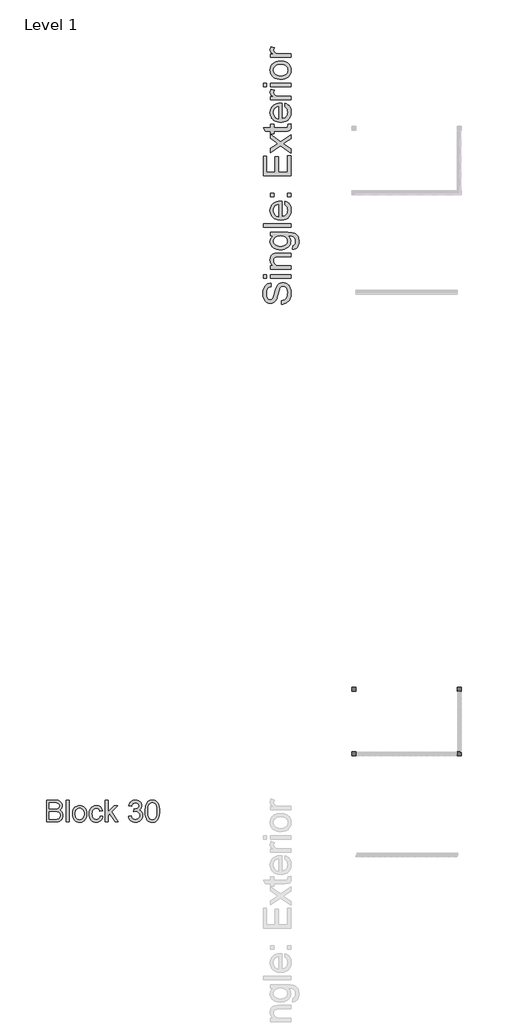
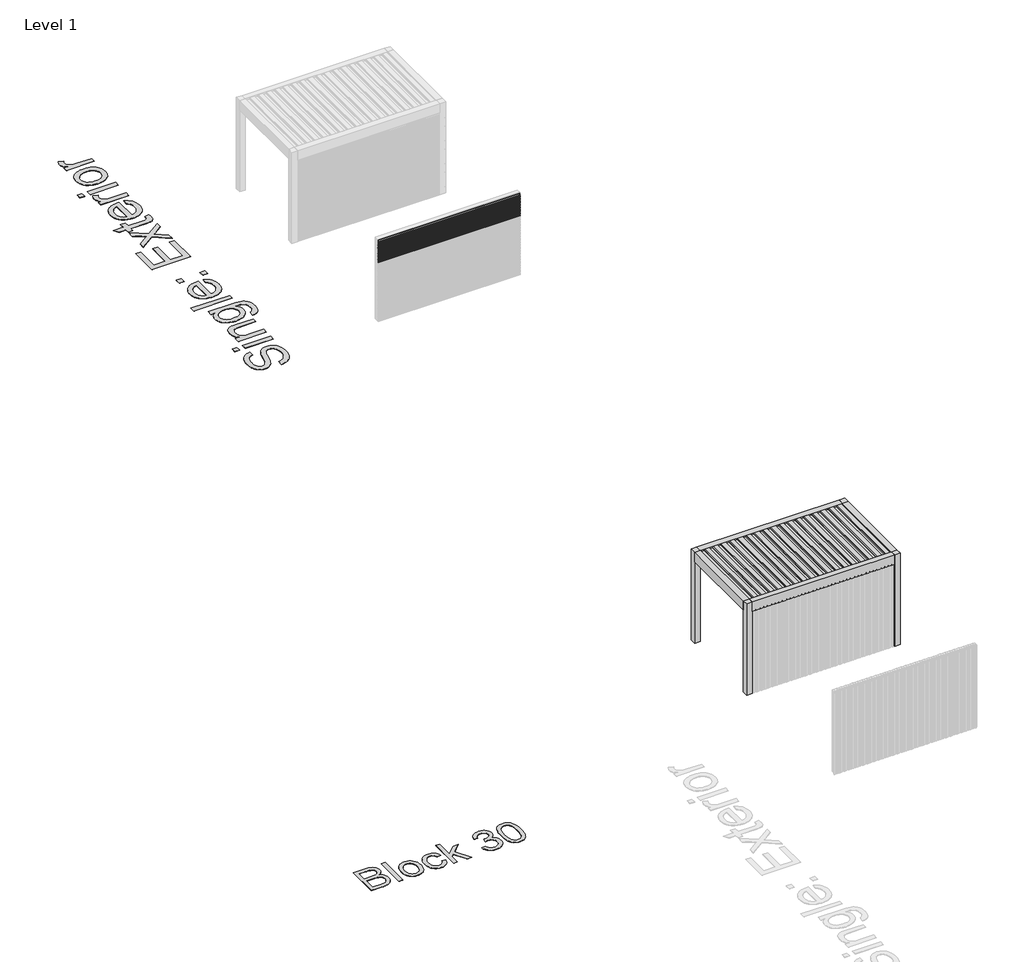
# One storey, part 56 of 69: 21 proxies.
"""IFC4 building model written with IfcOpenShell, lengths in millimetres."""

from ifc_helpers import new_model, si_unit, frame, origin, origin_with_axes, place, context, project, spatial, polyline, outline, extrude, transform, mapped, element, save
from components import generic_models_9b0df196

model = new_model("IFC4")

# Units and contexts
model_context = context("Model", 3, world=origin())
ifc_project = project(units=[si_unit("LENGTHUNIT", "METRE", prefix="MILLI")], contexts=[model_context])

# Site, building, storey
site = spatial("IfcSite", under=ifc_project)
building = spatial("IfcBuilding", under=site)
storey = spatial("IfcBuildingStorey", under=building, Name="Level 1", Elevation=0.0)

# Proxies
placement = place(None, origin())
element("IfcBuildingElementProxy", 1, Name="Wall Sweeps", at=placement, inside=storey, context=model_context, shape_type="SweptSolid", body=[
    extrude(outline(polyline([(35894.0955424, 2207.1), (35913.2455424, 2218.1562577), (35913.2455424, 2231.1), (35914.4955424, 2231.1), (35914.4955424, 2217.4345698), (35895.3455424, 2206.3782281), (35895.3455424, 2194.3216933), (35894.0955424, 2193.6), (35894.0955424, 2207.1)])), frame((207125.5749426, 0.0, 0.0), z_axis=(1.0, 0.0, 0.0), x_axis=(0.0, 1.0, 0.0)), (0.0, 0.0, 1.0), 3700.0),
])
element("IfcBuildingElementProxy", 2, Name="Wall Sweeps", at=placement, inside=storey, context=model_context, shape_type="SweptSolid", body=[
    extrude(outline(polyline([(35894.0955424, 2173.8), (35913.2455424, 2184.8562577), (35913.2455424, 2197.8), (35914.4955424, 2197.8), (35914.4955424, 2184.1345698), (35895.3455424, 2173.0782281), (35895.3455424, 2161.0216933), (35894.0955424, 2160.3), (35894.0955424, 2173.8)])), frame((207125.5749426, 0.0, 0.0), z_axis=(1.0, 0.0, 0.0), x_axis=(0.0, 1.0, 0.0)), (0.0, 0.0, 1.0), 3700.0),
])
element("IfcBuildingElementProxy", 3, Name="Wall Sweeps", at=placement, inside=storey, context=model_context, shape_type="SweptSolid", body=[
    extrude(outline(polyline([(35894.0955424, 2140.5), (35913.2455424, 2151.5562577), (35913.2455424, 2164.5), (35914.4955424, 2164.5), (35914.4955424, 2150.8345698), (35895.3455424, 2139.7782281), (35895.3455424, 2127.7216933), (35894.0955424, 2127.0), (35894.0955424, 2140.5)])), frame((207125.5749426, 0.0, 0.0), z_axis=(1.0, 0.0, 0.0), x_axis=(0.0, 1.0, 0.0)), (0.0, 0.0, 1.0), 3700.0),
])
element("IfcBuildingElementProxy", 4, Name="Wall Sweeps", at=placement, inside=storey, context=model_context, shape_type="SweptSolid", body=[
    extrude(outline(polyline([(35894.0955424, 2107.2), (35913.2455424, 2118.2562577), (35913.2455424, 2131.2), (35914.4955424, 2131.2), (35914.4955424, 2117.5345698), (35895.3455424, 2106.4782281), (35895.3455424, 2094.4216933), (35894.0955424, 2093.7), (35894.0955424, 2107.2)])), frame((207125.5749426, 0.0, 0.0), z_axis=(1.0, 0.0, 0.0), x_axis=(0.0, 1.0, 0.0)), (0.0, 0.0, 1.0), 3700.0),
])
element("IfcBuildingElementProxy", 5, Name="Wall Sweeps", at=placement, inside=storey, context=model_context, shape_type="SweptSolid", body=[
    extrude(outline(polyline([(35894.0955424, 2073.9), (35913.2455424, 2084.9562577), (35913.2455424, 2097.9), (35914.4955424, 2097.9), (35914.4955424, 2084.2345698), (35895.3455424, 2073.1782281), (35895.3455424, 2061.1216933), (35894.0955424, 2060.4), (35894.0955424, 2073.9)])), frame((207125.5749426, 0.0, 0.0), z_axis=(1.0, 0.0, 0.0), x_axis=(0.0, 1.0, 0.0)), (0.0, 0.0, 1.0), 3700.0),
])
element("IfcBuildingElementProxy", 6, Name="Wall Sweeps", at=placement, inside=storey, context=model_context, shape_type="SweptSolid", body=[
    extrude(outline(polyline([(35894.0955424, 2040.6), (35913.2455424, 2051.6562577), (35913.2455424, 2064.6), (35914.4955424, 2064.6), (35914.4955424, 2050.9345698), (35895.3455424, 2039.8782281), (35895.3455424, 2027.8216933), (35894.0955424, 2027.1), (35894.0955424, 2040.6)])), frame((207125.5749426, 0.0, 0.0), z_axis=(1.0, 0.0, 0.0), x_axis=(0.0, 1.0, 0.0)), (0.0, 0.0, 1.0), 3700.0),
])
element("IfcBuildingElementProxy", 7, Name="Wall Sweeps", at=placement, inside=storey, context=model_context, shape_type="SweptSolid", body=[
    extrude(outline(polyline([(35894.0955424, 2007.3), (35913.2455424, 2018.3562577), (35913.2455424, 2031.3), (35914.4955424, 2031.3), (35914.4955424, 2017.6345698), (35895.3455424, 2006.5782281), (35895.3455424, 1994.5216933), (35894.0955424, 1993.8), (35894.0955424, 2007.3)])), frame((207125.5749426, 0.0, 0.0), z_axis=(1.0, 0.0, 0.0), x_axis=(0.0, 1.0, 0.0)), (0.0, 0.0, 1.0), 3700.0),
])
element("IfcBuildingElementProxy", 8, Name="Wall Sweeps", at=placement, inside=storey, context=model_context, shape_type="SweptSolid", body=[
    extrude(outline(polyline([(35894.0955424, 1974.0), (35913.2455424, 1985.0562577), (35913.2455424, 1998.0), (35914.4955424, 1998.0), (35914.4955424, 1984.3345698), (35895.3455424, 1973.2782281), (35895.3455424, 1961.2216933), (35894.0955424, 1960.5), (35894.0955424, 1974.0)])), frame((207125.5749426, 0.0, 0.0), z_axis=(1.0, 0.0, 0.0), x_axis=(0.0, 1.0, 0.0)), (0.0, 0.0, 1.0), 3700.0),
])
element("IfcBuildingElementProxy", 9, Name="Wall Sweeps", at=placement, inside=storey, context=model_context, shape_type="SweptSolid", body=[
    extrude(outline(polyline([(35894.0955424, 1940.7), (35913.2455424, 1951.7562577), (35913.2455424, 1964.7), (35914.4955424, 1964.7), (35914.4955424, 1951.0345698), (35895.3455424, 1939.9782281), (35895.3455424, 1927.9216933), (35894.0955424, 1927.2), (35894.0955424, 1940.7)])), frame((207125.5749426, 0.0, 0.0), z_axis=(1.0, 0.0, 0.0), x_axis=(0.0, 1.0, 0.0)), (0.0, 0.0, 1.0), 3700.0),
])
element("IfcBuildingElementProxy", 10, Name="Wall Sweeps", at=placement, inside=storey, context=model_context, shape_type="SweptSolid", body=[
    extrude(outline(polyline([(35894.0955424, 1907.4), (35913.2455424, 1918.4562577), (35913.2455424, 1931.4), (35914.4955424, 1931.4), (35914.4955424, 1917.7345698), (35895.3455424, 1906.6782281), (35895.3455424, 1894.6216933), (35894.0955424, 1893.9), (35894.0955424, 1907.4)])), frame((207125.5749426, 0.0, 0.0), z_axis=(1.0, 0.0, 0.0), x_axis=(0.0, 1.0, 0.0)), (0.0, 0.0, 1.0), 3700.0),
])
element("IfcBuildingElementProxy", 11, Name="Wall Sweeps", at=placement, inside=storey, context=model_context, shape_type="SweptSolid", body=[
    extrude(outline(polyline([(35894.0955424, 1874.1), (35913.2455424, 1885.1562577), (35913.2455424, 1898.1), (35914.4955424, 1898.1), (35914.4955424, 1884.4345698), (35895.3455424, 1873.3782281), (35895.3455424, 1861.3216933), (35894.0955424, 1860.6), (35894.0955424, 1874.1)])), frame((207125.5749426, 0.0, 0.0), z_axis=(1.0, 0.0, 0.0), x_axis=(0.0, 1.0, 0.0)), (0.0, 0.0, 1.0), 3700.0),
])
element("IfcBuildingElementProxy", 12, Name="Wall Sweeps", at=placement, inside=storey, context=model_context, shape_type="SweptSolid", body=[
    extrude(outline(polyline([(35894.0955424, 1840.8), (35913.2455424, 1851.8562577), (35913.2455424, 1864.8), (35914.4955424, 1864.8), (35914.4955424, 1851.1345698), (35895.3455424, 1840.0782281), (35895.3455424, 1828.0216933), (35894.0955424, 1827.3), (35894.0955424, 1840.8)])), frame((207125.5749426, 0.0, 0.0), z_axis=(1.0, 0.0, 0.0), x_axis=(0.0, 1.0, 0.0)), (0.0, 0.0, 1.0), 3700.0),
])
element("IfcBuildingElementProxy", 13, Name="Wall Sweeps", at=placement, inside=storey, context=model_context, shape_type="SweptSolid", body=[
    extrude(outline(polyline([(35894.0955424, 1807.5), (35913.2455424, 1818.5562577), (35913.2455424, 1831.5), (35914.4955424, 1831.5), (35914.4955424, 1817.8345698), (35895.3455424, 1806.7782281), (35895.3455424, 1794.7216933), (35894.0955424, 1794.0), (35894.0955424, 1807.5)])), frame((207125.5749426, 0.0, 0.0), z_axis=(1.0, 0.0, 0.0), x_axis=(0.0, 1.0, 0.0)), (0.0, 0.0, 1.0), 3700.0),
])
element("IfcBuildingElementProxy", 14, Name="Wall Sweeps", at=placement, inside=storey, context=model_context, shape_type="SweptSolid", body=[
    extrude(outline(polyline([(35894.0955424, 1774.2), (35913.2455424, 1785.2562577), (35913.2455424, 1798.2), (35914.4955424, 1798.2), (35914.4955424, 1784.5345698), (35895.3455424, 1773.4782281), (35895.3455424, 1761.4216933), (35894.0955424, 1760.7), (35894.0955424, 1774.2)])), frame((207125.5749426, 0.0, 0.0), z_axis=(1.0, 0.0, 0.0), x_axis=(0.0, 1.0, 0.0)), (0.0, 0.0, 1.0), 3700.0),
])
element("IfcBuildingElementProxy", 15, Name="Wall Sweeps", at=placement, inside=storey, context=model_context, shape_type="SweptSolid", body=[
    extrude(outline(polyline([(35894.0955424, 1740.9), (35913.2455424, 1751.9562577), (35913.2455424, 1764.9), (35914.4955424, 1764.9), (35914.4955424, 1751.2345698), (35895.3455424, 1740.1782281), (35895.3455424, 1728.1216933), (35894.0955424, 1727.4), (35894.0955424, 1740.9)])), frame((207125.5749426, 0.0, 0.0), z_axis=(1.0, 0.0, 0.0), x_axis=(0.0, 1.0, 0.0)), (0.0, 0.0, 1.0), 3700.0),
])
element("IfcBuildingElementProxy", 16, Name="Wall Sweeps", at=placement, inside=storey, context=model_context, shape_type="SweptSolid", body=[
    extrude(outline(polyline([(35894.0955424, 1707.6), (35913.2455424, 1718.6562577), (35913.2455424, 1731.6), (35914.4955424, 1731.6), (35914.4955424, 1717.9345698), (35895.3455424, 1706.8782281), (35895.3455424, 1694.8216933), (35894.0955424, 1694.1), (35894.0955424, 1707.6)])), frame((207125.5749426, 0.0, 0.0), z_axis=(1.0, 0.0, 0.0), x_axis=(0.0, 1.0, 0.0)), (0.0, 0.0, 1.0), 3700.0),
])
element("IfcBuildingElementProxy", 17, Name="Wall Sweeps", at=placement, inside=storey, context=model_context, shape_type="SweptSolid", body=[
    extrude(outline(polyline([(35894.0955424, 1674.3), (35913.2455424, 1685.3562577), (35913.2455424, 1698.3), (35914.4955424, 1698.3), (35914.4955424, 1684.6345698), (35895.3455424, 1673.5782281), (35895.3455424, 1661.5216933), (35894.0955424, 1660.8), (35894.0955424, 1674.3)])), frame((207125.5749426, 0.0, 0.0), z_axis=(1.0, 0.0, 0.0), x_axis=(0.0, 1.0, 0.0)), (0.0, 0.0, 1.0), 3700.0),
])
element("IfcBuildingElementProxy", 18, Name="Wall Sweeps", at=placement, inside=storey, context=model_context, shape_type="SweptSolid", body=[
    extrude(outline(polyline([(35894.0955424, 1641.0), (35913.2455424, 1652.0562577), (35913.2455424, 1665.0), (35914.4955424, 1665.0), (35914.4955424, 1651.3345698), (35895.3455424, 1640.2782281), (35895.3455424, 1628.2216933), (35894.0955424, 1627.5), (35894.0955424, 1641.0)])), frame((207125.5749426, 0.0, 0.0), z_axis=(1.0, 0.0, 0.0), x_axis=(0.0, 1.0, 0.0)), (0.0, 0.0, 1.0), 3700.0),
])
generic_models_shape = generic_models_9b0df196(model_context)
element("IfcBuildingElementProxy", 19, Name="Renson_Camargue_Freestanding_Patio covers : Renson_Camargue_Freestanding_Patio covers", ObjectType="Renson_Camargue_Freestanding_Patio covers : Renson_Camargue_Freestanding_Patio covers", at=placement, inside=storey, context=model_context, shape_type="MappedRepresentation", body=[
    mapped(generic_models_shape, transform((208975.5749426, 20268.8290761, 0.0), x_axis=(1.0, 0.0, 0.0), y_axis=(0.0, 1.0, 0.0), z_axis=(0.0, 0.0, 1.0))),
])
element("IfcBuildingElementProxy", 20, Name="1000mm Arial", ObjectType="1000mm Arial", at=placement, inside=storey, context=model_context, shape_type="SweptSolid", body=[
    extrude(outline(polyline([(204392.9545821, 35521.116458), (204392.9545821, 35646.6868457), (204429.5051912, 35652.4350018), (204462.6375633, 35661.0955571), (204492.3516987, 35672.6685116), (204518.6475971, 35687.1538651), (204542.0540891, 35705.2873818), (204563.1000049, 35727.8048256), (204581.7853445, 35754.7061965), (204598.1101081, 35785.9914945), (204611.3615241, 35820.5110884), (204620.8268213, 35857.1153469), (204626.5059996, 35895.8042701), (204628.399059, 35936.5778579), (204622.6662312, 36006.5367506), (204615.5001966, 36038.2512443), (204605.467748, 36067.7891028), (204592.9291033, 36094.4222264), (204578.2444803, 36117.4225153), (204561.4138791, 36136.7899695), (204542.4372995, 36152.524589), (204522.1348119, 36164.7030159), (204501.3264865, 36173.4018923), (204480.0123234, 36178.6212181), (204458.1923226, 36180.3609933), (204416.1618046, 36175.1493317), (204379.8334576, 36159.5143469), (204363.7156277, 36146.3625656), (204348.8393995, 36127.753868), (204335.2047731, 36103.6882542), (204322.8117483, 36074.1657241), (204303.0994048, 36007.8549944), (204274.8644616, 35891.3283725), (204243.1346396, 35771.3068715), (204227.8445441, 35727.5059215), (204212.9376591, 35694.511505), (204192.9340756, 35660.980594), (204170.6925433, 35632.0022227), (204146.2130622, 35607.5763911), (204119.4956323, 35587.7030991), (204090.8161651, 35572.3057048), (204060.4505721, 35561.307566), (204028.3988533, 35554.7086827), (203994.6610086, 35552.5090549), (203957.2673367, 35555.2298488), (203921.1152664, 35563.3922306), (203886.2047979, 35576.9962002), (203852.5359312, 35596.0417577), (203821.4805594, 35620.3143051), (203794.4105759, 35649.5992448), (203771.3259807, 35683.8965766), (203752.2267738, 35723.2063007), (203737.2585751, 35766.2025089), (203726.5670047, 35811.5592932), (203720.1520624, 35859.2766536), (203718.0137483, 35909.3545902), (203720.2516971, 35963.9850665), (203726.9655435, 36015.3046048), (203738.1552875, 36063.3132052), (203753.8209291, 36108.0108676), (203773.8245126, 36148.5698576), (203798.0280822, 36184.1624406), (203826.4316379, 36214.7886167), (203859.0351798, 36240.4483859), (203894.8883459, 36260.9424787), (203933.0407745, 36276.0716258), (203973.4924655, 36285.835827), (204016.243419, 36290.2350826), (204016.243419, 36164.6646949), (203976.1749384, 36156.2647227), (203941.3181193, 36141.6107565), (203911.6729619, 36120.7027965), (203887.2394661, 36093.5408425), (203868.1402591, 36059.6190568), (203854.4979685, 36018.4316018), (203846.3125941, 35969.9784773), (203843.584136, 35914.2596835), (203846.2819373, 35856.7627933), (203854.3753412, 35807.6352186), (203867.8643476, 35766.8769592), (203886.7489567, 35734.4880152), (203909.4503415, 35709.8092647), (203934.3896751, 35692.1815857), (203961.5669575, 35681.6049784), (203990.9821887, 35678.0794426), (204016.2894043, 35680.5779745), (204039.2360437, 35688.0735701), (204059.822107, 35700.5662295), (204078.0475942, 35718.0559527), (204095.3073912, 35745.5857887), (204112.7511291, 35788.9345505), (204130.378808, 35848.102238), (204148.190428, 35923.0888514), (204181.8516305, 36061.5351089), (204197.0727481, 36110.2488164), (204211.2208765, 36145.2895765), (204232.6653311, 36183.7868944), (204256.7769302, 36216.8732814), (204283.5556738, 36244.5487373), (204313.0015618, 36266.8132622), (204344.9613101, 36283.9274392), (204379.2816346, 36296.1518513), (204415.9625352, 36303.4864986), (204455.0040119, 36305.931381), (204494.2830791, 36303.1186166), (204532.4125151, 36294.6803233), (204569.3923198, 36280.6165012), (204605.2224933, 36260.9271503), (204638.5158139, 36235.9571599), (204667.8850598, 36206.0514193), (204693.3302312, 36171.2099287), (204714.8513279, 36131.432688), (204731.9655049, 36087.8769926), (204744.189917, 36041.700138), (204751.5245643, 35992.9021242), (204753.9694467, 35941.4829511), (204751.3329591, 35877.2492219), (204743.4234962, 35818.4570806), (204730.241058, 35765.1065271), (204711.7856446, 35717.1975614), (204688.0265991, 35674.4389437), (204658.9332646, 35636.539434), (204624.5056412, 35603.4990323), (204584.7437289, 35575.3177386), (204540.9351147, 35552.6163538), (204494.3673854, 35536.0156788), (204445.0405412, 35525.5157135), (204392.9545821, 35521.116458)])), origin_with_axes(), (0.0, 0.0, 1.0), 5.0),
    extrude(outline(polyline([(204738.2731482, 36478.5906641), (204000.5471206, 36478.5906641), (204000.5471206, 36604.1610518), (204738.2731482, 36604.1610518), (204738.2731482, 36478.5906641)])), origin_with_axes(), (0.0, 0.0, 1.0), 5.0),
    extrude(outline(polyline([(203859.2804344, 36478.5906641), (203733.7100467, 36478.5906641), (203733.7100467, 36604.1610518), (203859.2804344, 36604.1610518), (203859.2804344, 36478.5906641)])), origin_with_axes(), (0.0, 0.0, 1.0), 5.0),
    extrude(outline(polyline([(204738.2731482, 36792.5166333), (204000.5471206, 36792.5166333), (204000.5471206, 36918.087021), (204103.5540792, 36918.087021), (204075.7330033, 36938.8033759), (204051.6214042, 36961.7116943), (204031.2192819, 36986.8119762), (204014.5266364, 37014.1042217), (204001.5434676, 37043.5884308), (203992.2697757, 37075.2646034), (203986.7055605, 37109.1327396), (203984.8508221, 37145.1928394), (203990.8289045, 37207.088985), (203998.3015076, 37236.0826848), (204008.7631518, 37263.7734691), (204021.65435, 37289.1113416), (204036.4156151, 37311.0463055), (204053.046947, 37329.578361), (204071.5483456, 37344.7075081), (204114.0693729, 37367.5468486), (204163.8867264, 37382.3540989), (204211.5274448, 37387.3205058), (204285.2877848, 37388.9759748), (204738.2731482, 37388.9759748), (204738.2731482, 37263.4055871), (204302.2103566, 37263.4055871), (204237.2791845, 37259.7880809), (204191.1099941, 37248.935562), (204173.6432635, 37240.3133277), (204158.0312713, 37228.9166501), (204144.2740176, 37214.7455291), (204132.3715022, 37197.7999647), (204115.9087829, 37157.915425), (204110.4212098, 37111.5929505), (204113.5022215, 37073.4635145), (204122.7452566, 37038.0472083), (204138.1503152, 37005.3440317), (204159.7173972, 36975.3539849), (204189.8990492, 36950.2996882), (204231.1478179, 36932.403762), (204283.4637033, 36921.6662062), (204346.8467054, 36918.087021), (204738.2731482, 36918.087021), (204738.2731482, 36792.5166333)])), origin_with_axes(), (0.0, 0.0, 1.0), 5.0),
    extrude(outline(polyline([(204801.0583421, 37530.242661), (204816.7546405, 37655.8130487), (204837.9078553, 37661.1166808), (204855.9953867, 37669.6699371), (204871.0172348, 37681.4728178), (204882.9733997, 37696.5253228), (204895.205476, 37720.8821766), (204903.9426734, 37749.3163891), (204909.1849918, 37781.8279604), (204910.9324313, 37818.4168905), (204908.9550656, 37857.6269799), (204903.0229684, 37892.1159169), (204893.1361398, 37921.8837017), (204879.2945797, 37946.9303342), (204861.8814986, 37967.7769806), (204841.2801069, 37984.944807), (204817.4904045, 37998.4338135), (204790.5123915, 38008.244), (204736.4950519, 38015.049817), (204644.0953575, 38016.8279133), (204685.2981409, 37975.04265), (204714.7287005, 37928.4136071), (204725.0293964, 37903.2826683), (204732.3870363, 37876.9407846), (204738.2731482, 37820.6241825), (204736.5601977, 37785.1714713), (204731.4213461, 37751.7765999), (204722.8565934, 37720.4395685), (204710.8659396, 37691.160377), (204695.4493847, 37663.9390254), (204676.6069288, 37638.7755138), (204654.3385718, 37615.669842), (204628.6443137, 37594.6220101), (204571.1014383, 37559.5889143), (204508.1016466, 37534.5652744), (204439.6449386, 37519.5510905), (204365.7313145, 37514.5463625), (204314.0209015, 37516.7919755), (204264.3491679, 37523.5288146), (204216.7161138, 37534.7568796), (204171.121739, 37550.4761707), (204129.0835568, 37570.4490974), (204092.1190805, 37594.4380691), (204060.2283101, 37622.443086), (204033.4112455, 37654.464148), (204012.1660603, 37689.9877532), (203996.990928, 37728.5003995), (203987.8858486, 37770.0020871), (203984.8508221, 37814.4928159), (203986.5676048, 37844.5326801), (203991.7179527, 37873.2159794), (204000.3018659, 37900.5427138), (204012.3193444, 37926.5128834), (204027.7703882, 37951.1264882), (204046.6549973, 37974.3835281), (204068.9731717, 37996.2840031), (204094.7249113, 38016.8279133), (204000.5471206, 38016.8279133), (204000.5471206, 38142.3983009), (204637.4734816, 38142.3983009), (204717.2808819, 38140.2523226), (204784.5343091, 38133.8143877), (204839.2337633, 38123.0844962), (204881.3792444, 38108.0626481), (204915.3700079, 38088.3886255), (204945.6053093, 38063.7022108), (204972.0851488, 38034.0034039), (204994.8095262, 37999.2922048), (205013.0503418, 37959.9211671), (205026.0794958, 37916.2428444), (205033.8969882, 37868.2572367), (205036.502819, 37815.9643439), (205032.8316632, 37754.4437444), (205021.818196, 37699.1311536), (205003.4624173, 37650.0265714), (204977.7643271, 37607.129998), (204944.6932686, 37572.4801125), (204904.2185849, 37548.1155946), (204856.3402761, 37534.0364441), (204801.0583421, 37530.242661)]), holes=[polyline([(204357.1474012, 37640.1167502), (204419.2351521, 37643.4660092), (204472.3251226, 37653.5137862), (204516.4173125, 37670.2600812), (204551.511722, 37693.7048942), (204578.2828014, 37722.2080846), (204597.4050009, 37754.1295119), (204608.8783206, 37789.469176), (204612.7027605, 37828.2270771), (204608.9013133, 37866.6017677), (204597.4969714, 37901.7728193), (204578.489735, 37933.7402318), (204551.879604, 37962.5040053), (204517.1300839, 37986.270715), (204473.70468, 38003.2469363), (204421.6033925, 38013.432669), (204360.8262212, 38016.8279133), (204302.5859028, 38013.3330343), (204251.9638074, 38002.8483974), (204208.959935, 37985.3740027), (204173.5742856, 37960.90985), (204145.944815, 37931.5252756), (204126.2094788, 37899.2896158), (204114.368277, 37864.2028705), (204110.4212098, 37826.2650398), (204114.3069634, 37788.9633383), (204125.9642241, 37754.5587075), (204145.392992, 37723.0511475), (204172.593267, 37694.4406582), (204207.4424218, 37670.6739484), (204249.8178291, 37653.6977272), (204299.7194889, 37643.5119944), (204357.1474012, 37640.1167502)])]), origin_with_axes(), (0.0, 0.0, 1.0), 5.0),
    extrude(outline(polyline([(204738.2731482, 38330.7538825), (203733.7100467, 38330.7538825), (203733.7100467, 38456.3242702), (204738.2731482, 38456.3242702), (204738.2731482, 38330.7538825)])), origin_with_axes(), (0.0, 0.0, 1.0), 5.0),
    extrude(outline(polyline([(204518.5249698, 39161.1861729), (204534.2212682, 39284.304014), (204583.532784, 39265.4270691), (204626.9888447, 39239.9435767), (204664.5894503, 39207.8535369), (204696.3346008, 39169.1569495), (204721.5498459, 39124.2523535), (204739.5607352, 39073.5382876), (204750.3672688, 39017.0147519), (204753.9694467, 38954.6817463), (204752.4155285, 38914.663083), (204747.7537738, 38876.7674054), (204739.9841827, 38840.9947135), (204729.1067552, 38807.3450072), (204715.1214912, 38775.8182867), (204698.0283908, 38746.4145518), (204677.827454, 38719.1338026), (204654.5186807, 38693.9760391), (204628.4048072, 38671.3857853), (204599.7885697, 38651.8075654), (204568.6699682, 38635.2413793), (204535.0490027, 38621.687227), (204498.9256733, 38611.1451086), (204460.2999798, 38603.615024), (204419.1719224, 38599.0969732), (204375.541501, 38597.5909563), (204330.4261392, 38599.1123016), (204287.9089441, 38603.6763377), (204247.9899155, 38611.2830643), (204210.6690535, 38621.9324817), (204175.9463581, 38635.6245897), (204143.8218293, 38652.3593883), (204114.2954671, 38672.1368777), (204087.3672714, 38694.9570577), (204063.3399786, 38720.2029596), (204042.5163249, 38747.2576147), (204024.8963101, 38776.1210229), (204010.4799344, 38806.7931842), (203999.2671978, 38839.2740987), (203991.2581002, 38873.5637664), (203986.4526416, 38909.6621871), (203984.8508221, 38947.5693611), (203986.4488095, 38984.2368493), (203991.2427718, 39019.191387), (203999.2327089, 39052.4329742), (204010.4186208, 39083.9616108), (204024.8005075, 39113.7772968), (204042.3783691, 39141.8800324), (204063.1522055, 39168.2698174), (204087.1220168, 39192.9466518), (204113.9888987, 39215.2782386), (204143.4539473, 39234.6322804), (204175.5171624, 39251.0087774), (204210.1785442, 39264.4077294), (204247.4380925, 39274.8291366), (204287.2958074, 39282.2729988), (204374.805737, 39288.2280886), (204408.6508806, 39287.4923246), (204408.6508806, 38723.161344), (204458.759474, 38730.4346776), (204502.6447303, 38744.8970386), (204540.3066496, 38766.5484268), (204571.7452318, 38795.3888424), (204596.5312812, 38829.82413), (204614.2356022, 38868.2601343), (204624.8581948, 38910.6968553), (204628.399059, 38957.1342929), (204626.7589184, 38991.8684846), (204621.8384968, 39023.9661887), (204613.637794, 39053.4274052), (204602.15681, 39080.252134), (204587.0889766, 39104.4403752), (204568.1277255, 39125.9921287), (204545.2730565, 39144.9073946), (204518.5249698, 39161.1861729)]), holes=[polyline([(204283.0804929, 38723.161344), (204283.0804929, 39162.6577009), (204247.5492235, 39156.2044376), (204216.7391064, 39145.6738155), (204190.6501416, 39131.0658346), (204169.282329, 39112.3804949), (204143.5305894, 39078.1368125), (204125.1364896, 39039.1719779), (204114.1000298, 38995.4859909), (204110.4212098, 38947.0788517), (204113.3566016, 38902.9253481), (204122.1627768, 38862.435336), (204136.8397356, 38825.6088155), (204157.3874778, 38792.4457864), (204182.8556418, 38764.6170463), (204212.2938656, 38743.7933926), (204245.7021493, 38729.9748251), (204283.0804929, 38723.161344)])]), origin_with_axes(), (0.0, 0.0, 1.0), 5.0),
    extrude(outline(polyline([(204738.2731482, 39445.1910732), (204612.7027605, 39445.1910732), (204612.7027605, 39570.7614609), (204738.2731482, 39570.7614609), (204738.2731482, 39445.1910732)])), origin_with_axes(), (0.0, 0.0, 1.0), 5.0),
    extrude(outline(polyline([(204126.1175083, 39445.1910732), (204000.5471206, 39445.1910732), (204000.5471206, 39570.7614609), (204126.1175083, 39570.7614609), (204126.1175083, 39445.1910732)])), origin_with_axes(), (0.0, 0.0, 1.0), 5.0),
    extrude(outline(polyline([(204738.2731482, 40214.3096978), (203733.7100467, 40214.3096978), (203733.7100467, 40936.339427), (203859.2804344, 40936.339427), (203859.2804344, 40339.8800855), (204157.5101052, 40339.8800855), (204157.5101052, 40904.9468301), (204283.0804929, 40904.9468301), (204283.0804929, 40339.8800855), (204612.7027605, 40339.8800855), (204612.7027605, 40952.0357254), (204738.2731482, 40952.0357254), (204738.2731482, 40214.3096978)])), origin_with_axes(), (0.0, 0.0, 1.0), 5.0),
    extrude(outline(polyline([(204738.2731482, 41046.2135162), (204367.4480971, 41314.522118), (204000.5471206, 41061.9098147), (204000.5471206, 41212.9866874), (204177.1304783, 41334.8782551), (204260.5170638, 41391.777337), (204192.3362674, 41441.0735244), (204000.5471206, 41579.8876639), (204000.5471206, 41730.9645366), (204367.4480971, 41465.5989907), (204738.2731482, 41721.15435), (204738.2731482, 41570.0774773), (204515.3366592, 41416.3028034), (204474.624385, 41388.0985171), (204738.2731482, 41197.2903889), (204738.2731482, 41046.2135162)])), origin_with_axes(), (0.0, 0.0, 1.0), 5.0),
    extrude(outline(polyline([(204633.5494069, 42097.8655131), (204741.9519682, 42113.5618116), (204750.9650771, 42063.8364285), (204753.9694467, 42019.6292754), (204748.7577851, 41959.3579419), (204742.2432081, 41934.9704313), (204733.1228003, 41914.4150248), (204709.0265296, 41882.6545459), (204694.5411761, 41870.9129789), (204678.4310104, 41861.9305269), (204656.8332716, 41855.2779941), (204625.8851987, 41850.526185), (204535.9380509, 41846.7247377), (204126.1175083, 41846.7247377), (204126.1175083, 41752.546947), (204000.5471206, 41752.546947), (204000.5471206, 41846.7247377), (203821.2659616, 41846.7247377), (203747.4443079, 41972.2951254), (204000.5471206, 41972.2951254), (204000.5471206, 42097.8655131), (204126.1175083, 42097.8655131), (204126.1175083, 41972.2951254), (204532.2592309, 41972.2951254), (204573.5846417, 41973.9505944), (204597.0064621, 41978.9170013), (204609.9743024, 41987.592885), (204619.9377731, 42000.3767844), (204626.2837375, 42018.4949726), (204628.399059, 42043.1737231), (204633.5494069, 42097.8655131)])), origin_with_axes(), (0.0, 0.0, 1.0), 5.0),
    extrude(outline(polyline([(204518.5249698, 42739.942222), (204534.2212682, 42863.0600631), (204583.532784, 42844.1831182), (204626.9888447, 42818.6996258), (204664.5894503, 42786.6095859), (204696.3346008, 42747.9129986), (204721.5498459, 42703.0084025), (204739.5607352, 42652.2943367), (204750.3672688, 42595.7708009), (204753.9694467, 42533.4377954), (204752.4155285, 42493.4191321), (204747.7537738, 42455.5234545), (204739.9841827, 42419.7507626), (204729.1067552, 42386.1010563), (204715.1214912, 42354.5743357), (204698.0283908, 42325.1706009), (204677.827454, 42297.8898517), (204654.5186807, 42272.7320881), (204628.4048072, 42250.1418344), (204599.7885697, 42230.5636144), (204568.6699682, 42213.9974283), (204535.0490027, 42200.4432761), (204498.9256733, 42189.9011577), (204460.2999798, 42182.3710731), (204419.1719224, 42177.8530223), (204375.541501, 42176.3470054), (204330.4261392, 42177.8683507), (204287.9089441, 42182.4323867), (204247.9899155, 42190.0391134), (204210.6690535, 42200.6885307), (204175.9463581, 42214.3806388), (204143.8218293, 42231.1154374), (204114.2954671, 42250.8929268), (204087.3672714, 42273.7131068), (204063.3399786, 42298.9590087), (204042.5163249, 42326.0136638), (204024.8963101, 42354.877072), (204010.4799344, 42385.5492333), (203999.2671978, 42418.0301478), (203991.2581002, 42452.3198154), (203986.4526416, 42488.4182362), (203984.8508221, 42526.3254101), (203986.4488095, 42562.9928984), (203991.2427718, 42597.9474361), (203999.2327089, 42631.1890232), (204010.4186208, 42662.7176599), (204024.8005075, 42692.5333459), (204042.3783691, 42720.6360815), (204063.1522055, 42747.0258665), (204087.1220168, 42771.7027009), (204113.9888987, 42794.0342877), (204143.4539473, 42813.3883295), (204175.5171624, 42829.7648264), (204210.1785442, 42843.1637785), (204247.4380925, 42853.5851856), (204287.2958074, 42861.0290479), (204374.805737, 42866.9841377), (204408.6508806, 42866.2483737), (204408.6508806, 42301.9173931), (204458.759474, 42309.1907267), (204502.6447303, 42323.6530876), (204540.3066496, 42345.3044759), (204571.7452318, 42374.1448915), (204596.5312812, 42408.5801791), (204614.2356022, 42447.0161833), (204624.8581948, 42489.4529043), (204628.399059, 42535.890342), (204626.7589184, 42570.6245337), (204621.8384968, 42602.7222378), (204613.637794, 42632.1834543), (204602.15681, 42659.0081831), (204587.0889766, 42683.1964242), (204568.1277255, 42704.7481778), (204545.2730565, 42723.6634437), (204518.5249698, 42739.942222)]), holes=[polyline([(204283.0804929, 42301.9173931), (204283.0804929, 42741.41375), (204247.5492235, 42734.9604867), (204216.7391064, 42724.4298645), (204190.6501416, 42709.8218837), (204169.282329, 42691.136544), (204143.5305894, 42656.8928616), (204125.1364896, 42617.9280269), (204114.1000298, 42574.24204), (204110.4212098, 42525.8349008), (204113.3566016, 42481.6813972), (204122.1627768, 42441.1913851), (204136.8397356, 42404.3648645), (204157.3874778, 42371.2018355), (204182.8556418, 42343.3730954), (204212.2938656, 42322.5494416), (204245.7021493, 42308.7308742), (204283.0804929, 42301.9173931)])]), origin_with_axes(), (0.0, 0.0, 1.0), 5.0),
    extrude(outline(polyline([(204738.2731482, 42992.5545254), (204000.5471206, 42992.5545254), (204000.5471206, 43102.4286146), (204109.6854458, 43102.4286146), (204046.4097426, 43143.0182614), (204024.5207639, 43162.1174683), (204009.1310338, 43180.4195976), (203990.920875, 43217.9435611), (203984.8508221, 43258.9010899), (203987.2727119, 43290.0484321), (203994.5383813, 43321.441029), (204006.6478303, 43353.0788806), (204023.6010589, 43384.9619869), (204136.1729495, 43343.0234394), (204116.8591447, 43298.8776), (204112.0306935, 43276.8046803), (204110.4212098, 43254.7317606), (204111.9693799, 43235.4869337), (204116.6138901, 43217.2384539), (204124.3547404, 43199.9863212), (204135.1919308, 43183.7305355), (204148.7729078, 43169.0842336), (204164.7451178, 43156.660552), (204203.8632366, 43138.4810501), (204274.0060703, 43123.2139473), (204350.5255253, 43118.124913), (204738.2731482, 43118.124913), (204738.2731482, 42992.5545254)])), origin_with_axes(), (0.0, 0.0, 1.0), 5.0),
    extrude(outline(polyline([(204738.2731482, 43463.4434792), (204000.5471206, 43463.4434792), (204000.5471206, 43589.0138669), (204738.2731482, 43589.0138669), (204738.2731482, 43463.4434792)])), origin_with_axes(), (0.0, 0.0, 1.0), 5.0),
    extrude(outline(polyline([(203859.2804344, 43463.4434792), (203733.7100467, 43463.4434792), (203733.7100467, 43589.0138669), (203859.2804344, 43589.0138669), (203859.2804344, 43463.4434792)])), origin_with_axes(), (0.0, 0.0, 1.0), 5.0),
    extrude(outline(polyline([(204369.4101344, 43745.9768515), (204319.9874876, 43747.6744736), (204273.8681146, 43752.76734), (204231.0520153, 43761.2554506), (204191.5391897, 43773.1388055), (204155.3296379, 43788.4174046), (204122.4233599, 43807.0912479), (204092.8203556, 43829.1603355), (204066.520625, 43854.6246674), (204030.7900863, 43902.4799836), (204005.2682728, 43955.3017067), (203989.9551848, 44013.0898368), (203984.8508221, 44075.8443738), (203986.4047403, 44111.3124135), (203991.066495, 44145.121152), (203998.8360861, 44177.2705895), (204009.7135136, 44207.7607259), (204023.6987776, 44236.5915612), (204040.791878, 44263.7630955), (204060.9928149, 44289.2753286), (204084.3015881, 44313.1282607), (204110.3503159, 44334.7125871), (204138.7711161, 44353.4190034), (204169.5639887, 44369.2475094), (204202.7289338, 44382.1981053), (204238.2659513, 44392.270791), (204276.1750413, 44399.4655665), (204359.1094385, 44405.2213868), (204426.3245447, 44402.6768697), (204485.9674132, 44395.0433183), (204538.0380439, 44382.3207326), (204582.5364369, 44364.5091127), (204620.9724412, 44341.8307205), (204654.8559058, 44314.5078182), (204684.1868307, 44282.5404057), (204708.965216, 44245.9284829), (204728.6545669, 44206.0975927), (204742.718389, 44164.4732778), (204751.1566823, 44121.0555382), (204753.9694467, 44075.8443738), (204752.4212766, 44039.816847), (204747.7767664, 44005.5559201), (204740.0359161, 43973.0615933), (204729.1987257, 43942.3338664), (204715.2651951, 43913.3727395), (204698.2353244, 43886.1782127), (204678.1091136, 43860.7502858), (204654.8865627, 43837.088959), (204628.7516126, 43815.7345588), (204599.8882044, 43797.2274119), (204568.296338, 43781.5675185), (204533.9760136, 43768.7548784), (204496.927231, 43758.7894916), (204457.1499903, 43751.6713582), (204369.4101344, 43745.9768515)]), holes=[polyline([(204369.1648797, 43871.5472392), (204430.0723426, 43875.1800739), (204482.8097594, 43886.078578), (204527.3771303, 43904.2427515), (204563.7744552, 43929.6725944), (204592.0477194, 43960.6053388), (204612.2429081, 43995.2782169), (204624.3600213, 44033.6912285), (204628.399059, 44075.8443738), (204624.3370286, 44117.7829213), (204612.1509376, 44156.0426488), (204591.8407857, 44190.6235563), (204563.4065732, 44221.5256439), (204526.6490305, 44246.9554868), (204481.3688883, 44265.1196603), (204427.5661465, 44276.0181645), (204365.2408051, 44279.6509992), (204306.2647228, 44275.9951718), (204254.9068634, 44265.0276898), (204211.167227, 44246.7485532), (204175.0458136, 44221.1577619), (204146.7725494, 44190.1407112), (204126.5773608, 44155.5827963), (204114.4602475, 44117.4840172), (204110.4212098, 44075.8443738), (204114.4449191, 44033.6912285), (204126.5160471, 43995.2782169), (204146.6345937, 43960.6053388), (204174.800559, 43929.6725944), (204211.0905849, 43904.2427515), (204255.5813137, 43886.078578), (204308.2727453, 43875.1800739), (204369.1648797, 43871.5472392)])]), origin_with_axes(), (0.0, 0.0, 1.0), 5.0),
    extrude(outline(polyline([(204738.2731482, 44546.488073), (204000.5471206, 44546.488073), (204000.5471206, 44656.3621622), (204109.6854458, 44656.3621622), (204046.4097426, 44696.951809), (204024.5207639, 44716.0510159), (204009.1310338, 44734.3531452), (203990.920875, 44771.8771087), (203984.8508221, 44812.8346375), (203987.2727119, 44843.9819798), (203994.5383813, 44875.3745767), (204006.6478303, 44907.0124283), (204023.6010589, 44938.8955345), (204136.1729495, 44896.9569871), (204116.8591447, 44852.8111476), (204112.0306935, 44830.7382279), (204110.4212098, 44808.6653082), (204111.9693799, 44789.4204813), (204116.6138901, 44771.1720015), (204124.3547404, 44753.9198688), (204135.1919308, 44737.6640831), (204148.7729078, 44723.0177812), (204164.7451178, 44710.5940997), (204203.8632366, 44692.4145977), (204274.0060703, 44677.1474949), (204350.5255253, 44672.0584607), (204738.2731482, 44672.0584607), (204738.2731482, 44546.488073)])), origin_with_axes(), (0.0, 0.0, 1.0), 5.0),
])
element("IfcBuildingElementProxy", 21, Name="800mm Arial", ObjectType="800mm Arial", at=placement, inside=storey, context=model_context, shape_type="SweptSolid", body=[
    extrude(outline(polyline([(195802.3300571, 16597.0104743), (195802.3300571, 17396.3991726), (196107.3702269, 17396.3991726), (196151.6173965, 17394.9293494), (196191.2660318, 17390.5198795), (196226.3161329, 17383.1707632), (196256.7676997, 17372.8820002), (196283.3952865, 17359.5438114), (196306.9734475, 17343.0464174), (196327.5021825, 17323.3898182), (196344.9814917, 17300.5740137), (196358.9417633, 17275.8858618), (196368.913386, 17250.6122201), (196374.8963596, 17224.7530886), (196376.8906841, 17198.3084674), (196375.2134998, 17173.8825661), (196370.1819471, 17150.1763292), (196361.796026, 17127.189757), (196350.0557363, 17104.9228492), (196334.9244851, 17084.070875), (196316.3656792, 17065.3291035), (196294.3793186, 17048.6975348), (196268.9654033, 17034.1761687), (196299.1242252, 17021.3197892), (196325.587143, 17004.6089354), (196348.3541567, 16984.0436072), (196367.4252661, 16959.6238047), (196382.4955288, 16932.0935879), (196393.2600022, 16902.1970165), (196399.7186862, 16869.9340907), (196401.8715809, 16835.3048104), (196395.9922878, 16779.5613053), (196378.3544085, 16727.8674377), (196352.0317643, 16683.9069142), (196320.0981765, 16651.3634412), (196280.9923389, 16627.797478), (196233.1529457, 16610.7694839), (196175.0186907, 16600.4502267), (196105.0282679, 16597.0104743), (195802.3300571, 16597.0104743)]), holes=[polyline([(195902.2536444, 16696.9340616), (196107.1750637, 16696.9340616), (196181.3371011, 16700.8373267), (196215.7590205, 16709.4976962), (196244.0820881, 16722.5980298), (196267.1113523, 16741.3580978), (196285.6518617, 16766.9976707), (196297.8739606, 16798.3701641), (196301.9479936, 16834.3289941), (196297.1664938, 16876.093931), (196282.8219945, 16912.0039702), (196271.7769739, 16927.2693961), (196257.7679114, 16940.0830837), (196240.794807, 16950.4450328), (196220.8576606, 16958.3552436), (196168.5783032, 16968.3817559), (196097.4169009, 16971.7239266), (195902.2536444, 16971.7239266), (195902.2536444, 16696.9340616)]), polyline([(195902.2536444, 17071.6475139), (196084.7312892, 17071.6475139), (196148.5496741, 17073.7943098), (196191.2904272, 17080.2346972), (196228.5910046, 17095.0427093), (196255.4015569, 17117.2181343), (196271.5757118, 17146.4194366), (196276.9670968, 17182.3050803), (196271.9416429, 17217.1417216), (196256.8652814, 17247.489608), (196232.4210835, 17271.1775482), (196199.2921207, 17286.0343511), (196148.4520924, 17293.8652768), (196070.874698, 17296.4755853), (195902.2536444, 17296.4755853), (195902.2536444, 17071.6475139)])]), origin_with_axes(), (0.0, 0.0, 1.0), 5.0),
    extrude(outline(polyline([(196526.776065, 16597.0104743), (196526.776065, 17396.3991726), (196626.6996523, 17396.3991726), (196626.6996523, 16597.0104743), (196526.776065, 16597.0104743)])), origin_with_axes(), (0.0, 0.0, 1.0), 5.0),
    extrude(outline(polyline([(196751.6041364, 16890.536012), (196757.0077191, 16966.5642981), (196763.7621974, 17000.6355334), (196773.2184671, 17032.0781637), (196785.3765281, 17060.8921889), (196800.2363804, 17087.0776089), (196817.798024, 17110.6344238), (196838.061459, 17131.5626337), (196876.1426894, 17159.9954806), (196918.1759758, 17180.304657), (196964.1613181, 17192.4901628), (197014.0987163, 17196.5519981), (197069.2262374, 17191.6058293), (197119.0721529, 17176.7673229), (197163.6364627, 17152.036479), (197202.9191669, 17117.4132976), (197234.9808306, 17074.0687581), (197257.882019, 17023.1738401), (197271.622732, 16964.7285437), (197276.2029697, 16898.7328687), (197274.1781509, 16845.2459388), (197268.1036946, 16797.7846744), (197257.9796006, 16756.3490755), (197243.8058691, 16720.9391421), (197225.7593668, 16690.3534005), (197204.0169602, 16663.3903769), (197178.5786495, 16640.0500712), (197149.4444347, 16620.3324834), (197117.748702, 16604.6645333), (197084.6258381, 16593.4731403), (197050.0758429, 16586.7583045), (197014.0987163, 16584.5200259), (196958.1661468, 16589.4478981), (196907.8567186, 16604.2315148), (196863.1704317, 16628.8708759), (196824.1072862, 16663.3659815), (196792.3871582, 16707.1313417), (196769.7299239, 16759.5814669), (196756.1355833, 16820.716357), (196751.6041364, 16890.536012)]), holes=[polyline([(196851.5277237, 16890.7311752), (196854.4185795, 16842.2636003), (196863.0911467, 16800.2974013), (196877.5454253, 16764.8325783), (196897.7814155, 16735.8691313), (196922.3963812, 16713.3704671), (196949.9875866, 16697.2999927), (196980.5550316, 16687.6577081), (197014.0987163, 16684.4436132), (197047.4716332, 16687.6760046), (197077.9171012, 16697.3731789), (197105.4351203, 16713.5351361), (197130.0256906, 16736.1618761), (197150.2616808, 16765.4119692), (197164.7159595, 16801.4439854), (197173.3885267, 16844.2579248), (197176.2793824, 16893.8537873), (197173.3702301, 16940.7844517), (197164.6427733, 16981.6528573), (197150.0970118, 17016.4590043), (197129.7329458, 17045.2028927), (197105.0508927, 17067.7015568), (197077.5511701, 17083.7720312), (197047.233778, 17093.4143159), (197014.0987163, 17096.6284108), (196980.5550316, 17093.4265136), (196949.9875866, 17083.8208221), (196922.3963812, 17067.8113362), (196897.7814155, 17045.398056), (196877.5454253, 17016.5199929), (196863.0911467, 16981.1161584), (196854.4185795, 16939.1865525), (196851.5277237, 16890.7311752)])]), origin_with_axes(), (0.0, 0.0, 1.0), 5.0),
    extrude(outline(polyline([(197763.3304578, 16809.3480973), (197863.2540451, 16796.8576489), (197852.3858912, 16749.7074259), (197835.3944902, 16707.985181), (197812.279842, 16671.6909141), (197783.0419467, 16640.8246254), (197748.9127722, 16616.1913631), (197711.1242867, 16598.5961758), (197669.6764901, 16588.0390634), (197624.5693824, 16584.5200259), (197568.5270336, 16589.4296016), (197518.2785939, 16604.1583286), (197473.8240634, 16628.7062069), (197435.1634421, 16663.0732366), (197403.8702337, 16706.6129393), (197381.517942, 16758.6788368), (197368.1065669, 16819.2709291), (197363.6361086, 16888.3892162), (197365.5450492, 16934.3318665), (197371.271871, 16977.3104749), (197380.816574, 17017.3250413), (197394.1791582, 17054.3755657), (197411.4511064, 17087.7179883), (197432.7239014, 17116.6082491), (197457.9975431, 17141.0463482), (197487.2720315, 17161.0322854), (197519.2239159, 17176.5721597), (197552.5297454, 17187.6720699), (197587.18952, 17194.332016), (197623.2032396, 17196.5519981), (197667.5357931, 17193.5025722), (197707.6357435, 17184.3542945), (197743.5030907, 17169.1071651), (197775.1378348, 17147.7611839), (197802.0032768, 17120.8042592), (197823.5627178, 17088.7242989), (197839.8161577, 17051.5213031), (197850.7635966, 17009.1952719), (197750.8400094, 16996.7048235), (197743.0395779, 17020.0451292), (197732.7142219, 17040.2994159), (197719.8639412, 17057.4676836), (197704.488736, 17071.5499323), (197686.9789325, 17082.5217666), (197667.7248575, 17090.3587912), (197646.7265109, 17095.0610059), (197623.9838927, 17096.6284108), (197590.0315849, 17093.5423918), (197559.4092502, 17084.2843348), (197532.1168886, 17068.8542398), (197508.1545, 17047.2521069), (197488.6442732, 17018.9778301), (197474.7083969, 16983.5313037), (197466.3468711, 16940.9125275), (197463.5596959, 16891.1215017), (197466.2858826, 16840.5803172), (197474.4644428, 16797.4675341), (197488.0953765, 16761.7831524), (197507.1786837, 16733.5271722), (197530.6653618, 16712.0531151), (197557.5064085, 16696.7145029), (197587.7018235, 16687.5113356), (197621.2516071, 16684.4436132), (197648.2878169, 16686.3586526), (197672.9942654, 16692.103771), (197695.3709526, 16701.6789683), (197715.4178783, 16715.0842444), (197732.5739483, 16732.465972), (197746.2780682, 16753.9705233), (197756.530238, 16779.5978984), (197763.3304578, 16809.3480973)])), origin_with_axes(), (0.0, 0.0, 1.0), 5.0),
    extrude(outline(polyline([(197950.6871839, 16597.0104743), (197950.6871839, 17396.3991726), (198050.6107712, 17396.3991726), (198050.6107712, 16966.8448452), (198274.6581896, 17184.0615496), (198412.8337752, 17184.0615496), (198186.0540712, 16964.1125596), (198425.3242236, 16597.0104743), (198308.6165962, 16597.0104743), (198114.4291561, 16894.6344404), (198050.6107712, 16832.7676881), (198050.6107712, 16597.0104743), (197950.6871839, 16597.0104743)])), origin_with_axes(), (0.0, 0.0, 1.0), 5.0),
    extrude(outline(polyline([(198800.0376759, 16809.3480973), (198899.9612632, 16821.8385457), (198909.8475019, 16787.8923368), (198922.3318515, 16759.044768), (198937.4143119, 16735.2958392), (198955.0948832, 16716.6455505), (198975.7760895, 16702.5572029), (198999.8604551, 16692.4940975), (199027.34798, 16686.4562343), (199058.2386642, 16684.4436132), (199094.4414483, 16687.2124919), (199126.7409672, 16695.519128), (199155.137221, 16709.3635215), (199179.6302097, 16728.7456724), (199199.3538963, 16752.214054), (199213.4422439, 16778.3171395), (199221.8952524, 16807.054929), (199224.7129219, 16838.4274225), (199221.9196478, 16868.3056973), (199213.5398255, 16895.4882796), (199199.573455, 16919.9751694), (199180.0205362, 16941.7663668), (199156.1618281, 16959.654299), (199129.2780895, 16972.4313935), (199099.3693205, 16980.0976501), (199066.435521, 16982.653069), (199034.8678642, 16979.9207834), (198996.3719119, 16971.7239266), (199007.4962175, 17071.6475139), (199023.4996045, 17070.4765344), (199054.2256197, 17072.2695968), (199083.3659335, 17077.6487841), (199110.9205457, 17086.6140962), (199136.8894565, 17099.1655331), (199158.9185091, 17115.4372696), (199174.6535466, 17135.5634804), (199184.0945692, 17159.5441656), (199187.2415767, 17187.379325), (199184.9606061, 17209.9755708), (199178.1176944, 17230.5348001), (199166.7128417, 17249.0570129), (199150.7460477, 17265.5422092), (199131.1809313, 17279.0755613), (199108.9811109, 17288.7422413), (199084.1465865, 17294.5422493), (199056.6773581, 17296.4755853), (199029.281316, 17294.5239528), (199004.2760238, 17288.6690551), (198981.6614814, 17278.9108923), (198961.437689, 17265.2494643), (198944.1047523, 17247.6847712), (198930.1627772, 17226.216813), (198919.6117636, 17200.8455897), (198912.4517116, 17171.5711012), (198812.5281243, 17184.0615496), (198824.3720945, 17231.7667681), (198841.9489852, 17273.7878568), (198865.2587967, 17310.1248156), (198894.3015288, 17340.7776446), (198928.1623538, 17365.1120631), (198965.9264439, 17382.4937906), (199007.5937991, 17392.9228271), (199053.1644195, 17396.3991726), (199085.2138855, 17394.6853953), (199115.9825927, 17389.5440633), (199145.470541, 17380.9751765), (199173.6777304, 17368.9787351), (199199.6222458, 17354.0121529), (199222.322172, 17336.5328437), (199241.7775092, 17316.5408077), (199257.9882571, 17294.0360446), (199270.7531539, 17269.9150859), (199279.8709373, 17245.0744627), (199285.3416073, 17219.5141749), (199287.165164, 17193.2342227), (199285.4330901, 17168.5216754), (199280.2368684, 17144.9313167), (199271.5764989, 17122.4631468), (199259.4519816, 17101.1171657), (199243.9365027, 17081.3934791), (199225.1032484, 17063.7921929), (199202.9522188, 17048.3133071), (199177.4834139, 17034.9568217), (199210.7831445, 17024.5399829), (199240.0332376, 17009.68318), (199265.233693, 16990.386413), (199286.384511, 16966.649682), (199303.1197602, 16939.0584766), (199315.0735096, 16908.1982867), (199322.2457593, 16874.0691122), (199324.6365092, 16836.6709532), (199319.8550094, 16785.9772973), (199305.5105101, 16739.2844882), (199281.6030112, 16696.5925259), (199248.1325127, 16657.9014103), (199207.3555898, 16625.7970546), (199161.5288177, 16602.865372), (199110.6521962, 16589.1063624), (199054.7257256, 16584.5200259), (199004.1784422, 16588.4354887), (198958.1199136, 16600.1818772), (198916.55014, 16619.7591914), (198879.4691213, 16647.1674312), (198848.377175, 16680.7964998), (198824.7746187, 16719.0363004), (198808.6614523, 16761.8868329), (198800.0376759, 16809.3480973)])), origin_with_axes(), (0.0, 0.0, 1.0), 5.0),
    extrude(outline(polyline([(199412.0696481, 16990.264436), (199413.9054025, 17057.4798813), (199419.4126656, 17118.218346), (199428.5914375, 17172.4798301), (199441.4417182, 17220.2643337), (199457.9086179, 17261.9621832), (199477.9372471, 17297.9637052), (199501.5276058, 17328.2688996), (199528.6796938, 17352.8777665), (199559.4849941, 17371.9183817), (199594.0349893, 17385.5188211), (199632.3296795, 17393.6790848), (199674.3690647, 17396.3991726), (199705.9611169, 17394.7890758), (199735.9430721, 17389.9587852), (199764.3149305, 17381.9083009), (199791.0766921, 17370.6376228), (199815.5818785, 17356.3358154), (199837.1840114, 17339.1919431), (199855.8830909, 17319.2060059), (199871.679117, 17296.3780037), (199897.7334117, 17242.5617358), (199918.5182985, 17178.1090703), (199926.4590035, 17140.2047066), (199932.1309357, 17096.2624797), (199936.6684814, 16990.264436), (199934.8510236, 16923.4759103), (199929.3986501, 16863.0423882), (199920.311361, 16808.9638696), (199907.5891562, 16761.2403546), (199891.2503323, 16719.5242085), (199871.3131859, 16683.4677969), (199847.7777169, 16653.0711197), (199820.6439254, 16628.334177), (199789.8020321, 16609.1654859), (199755.1422575, 16595.4735637), (199716.6646017, 16587.2584103), (199674.3690647, 16584.5200259), (199619.3330264, 16589.2771303), (199570.5422123, 16603.5484434), (199527.9966224, 16627.3339653), (199491.6962567, 16660.6336959), (199473.0337703, 16688.8805278), (199456.8596154, 16720.8293628), (199443.1737921, 16756.4802008), (199431.9763003, 16795.8330418), (199417.0463111, 16885.6447329), (199412.0696481, 16990.264436)]), holes=[polyline([(199511.9932354, 16990.4595993), (199514.9206842, 16903.5936536), (199523.7030308, 16833.2799916), (199538.340275, 16779.5186133), (199547.8544838, 16758.8450306), (199558.8324169, 16742.3095187), (199583.6181505, 16716.993185), (199611.1361697, 16698.9100896), (199641.3864744, 16688.0602323), (199674.3690647, 16684.4436132), (199707.3516551, 16688.07243), (199737.6019598, 16698.9588804), (199765.119979, 16717.1029644), (199789.9057125, 16742.504682), (199800.8836457, 16759.0798363), (199810.3978545, 16779.7747651), (199825.0350987, 16833.5239457), (199833.8174452, 16903.7522237), (199836.7448941, 16990.4595993), (199833.9150269, 17075.0262778), (199825.4254252, 17144.1018729), (199811.2760891, 17197.6863845), (199791.4670186, 17235.7798126), (199767.096007, 17262.3342132), (199739.2608475, 17281.3016422), (199707.9615403, 17292.6820996), (199673.1980852, 17296.4755853), (199640.3862627, 17293.1334146), (199610.6482615, 17283.1069023), (199583.9840816, 17266.3960485), (199560.393723, 17243.0008531), (199539.2185097, 17201.5286611), (199524.0933573, 17145.6143881), (199515.0182659, 17075.2580342), (199511.9932354, 16990.4595993)])]), origin_with_axes(), (0.0, 0.0, 1.0), 5.0),
])

save(model, "model.ifc")
